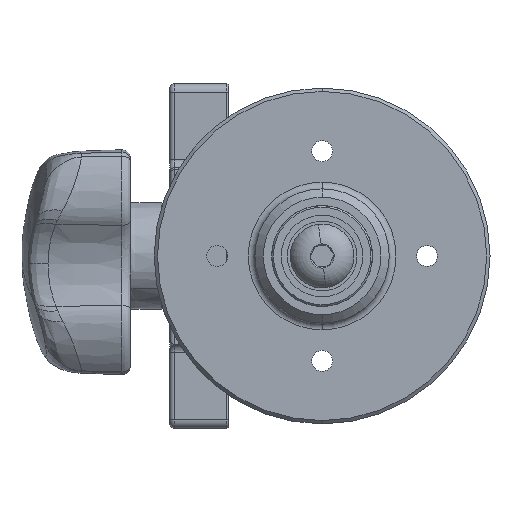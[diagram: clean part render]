
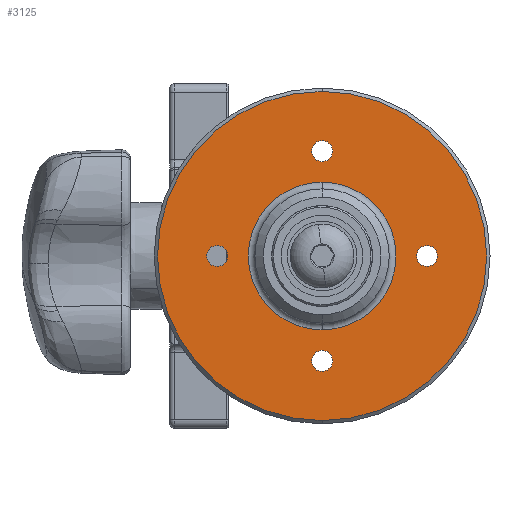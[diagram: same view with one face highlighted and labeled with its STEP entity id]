
A CAD part, left-side view. The second image highlights one B-rep face of the part: STEP entity #3125.
In plain terms, the highlighted planar face has unit normal (-1, 0, 0).
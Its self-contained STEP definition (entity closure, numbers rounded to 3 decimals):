
#211 = VERTEX_POINT ( 'NONE', #40286 ) ;
#620 = CARTESIAN_POINT ( 'NONE',  ( -23., 10.875, 0. ) ) ;
#1340 = DIRECTION ( 'NONE',  ( -1., 0., 0. ) ) ;
#1587 = AXIS2_PLACEMENT_3D ( 'NONE', #14148, #36332, #9203 ) ;
#3125 = ADVANCED_FACE ( 'NONE', ( #69197, #13176, #21690, #53123, #48879, #38749 ), #14238, .T. ) ;
#4260 = AXIS2_PLACEMENT_3D ( 'NONE', #45377, #12817, #55570 ) ;
#4663 = DIRECTION ( 'NONE',  ( -1., 0., 0. ) ) ;
#5542 = VERTEX_POINT ( 'NONE', #28936 ) ;
#6027 = AXIS2_PLACEMENT_3D ( 'NONE', #23397, #45500, #12935 ) ;
#7520 = ORIENTED_EDGE ( 'NONE', *, *, #42803, .T. ) ;
#9203 = DIRECTION ( 'NONE',  ( 0., 0., 1. ) ) ;
#9245 = DIRECTION ( 'NONE',  ( -1., 0., 0. ) ) ;
#10190 = DIRECTION ( 'NONE',  ( 0., 0., 1. ) ) ;
#10434 = ORIENTED_EDGE ( 'NONE', *, *, #15001, .F. ) ;
#11904 = EDGE_CURVE ( 'NONE', #53895, #22512, #35345, .T. ) ;
#12817 = DIRECTION ( 'NONE',  ( -1., 0., 0. ) ) ;
#12871 = EDGE_LOOP ( 'NONE', ( #64653, #32548 ) ) ;
#12935 = DIRECTION ( 'NONE',  ( 0., 0., 1. ) ) ;
#13176 = FACE_BOUND ( 'NONE', #56839, .T. ) ;
#13773 = DIRECTION ( 'NONE',  ( 0., 0., 1. ) ) ;
#14148 = CARTESIAN_POINT ( 'NONE',  ( -23., -1.625, 0. ) ) ;
#14238 = PLANE ( 'NONE',  #20377 ) ;
#15001 = EDGE_CURVE ( 'NONE', #27385, #35180, #16781, .T. ) ;
#15328 = AXIS2_PLACEMENT_3D ( 'NONE', #35072, #46654, #68186 ) ;
#16122 = ORIENTED_EDGE ( 'NONE', *, *, #65650, .F. ) ;
#16781 = CIRCLE ( 'NONE', #24660, 1.25 ) ;
#18913 = AXIS2_PLACEMENT_3D ( 'NONE', #620, #1340, #44636 ) ;
#19375 = ORIENTED_EDGE ( 'NONE', *, *, #55186, .F. ) ;
#19451 = CIRCLE ( 'NONE', #22443, 1.25 ) ;
#19595 = VERTEX_POINT ( 'NONE', #45884 ) ;
#19921 = CARTESIAN_POINT ( 'NONE',  ( -23., 10.875, 0. ) ) ;
#20056 = DIRECTION ( 'NONE',  ( -1., 0., 0. ) ) ;
#20174 = EDGE_CURVE ( 'NONE', #52484, #49333, #40507, .T. ) ;
#20377 = AXIS2_PLACEMENT_3D ( 'NONE', #19921, #46365, #13773 ) ;
#20581 = DIRECTION ( 'NONE',  ( 0., 0., 1. ) ) ;
#21690 = FACE_BOUND ( 'NONE', #60979, .T. ) ;
#22384 = VERTEX_POINT ( 'NONE', #34439 ) ;
#22443 = AXIS2_PLACEMENT_3D ( 'NONE', #40765, #24794, #51642 ) ;
#22512 = VERTEX_POINT ( 'NONE', #68284 ) ;
#23397 = CARTESIAN_POINT ( 'NONE',  ( -23., 10.875, 0. ) ) ;
#24660 = AXIS2_PLACEMENT_3D ( 'NONE', #64135, #63660, #42110 ) ;
#24794 = DIRECTION ( 'NONE',  ( -1., 0., 0. ) ) ;
#25819 = DIRECTION ( 'NONE',  ( 0., 0., 1. ) ) ;
#27084 = AXIS2_PLACEMENT_3D ( 'NONE', #69237, #9245, #20581 ) ;
#27212 = CIRCLE ( 'NONE', #27084, 1.25 ) ;
#27228 = CARTESIAN_POINT ( 'NONE',  ( -23., 10.875, 0. ) ) ;
#27385 = VERTEX_POINT ( 'NONE', #29874 ) ;
#28936 = CARTESIAN_POINT ( 'NONE',  ( -23., 23.375, 1.25 ) ) ;
#29874 = CARTESIAN_POINT ( 'NONE',  ( -23., 10.875, 13.75 ) ) ;
#30556 = EDGE_CURVE ( 'NONE', #22512, #53895, #66370, .T. ) ;
#30778 = ORIENTED_EDGE ( 'NONE', *, *, #45862, .T. ) ;
#31016 = AXIS2_PLACEMENT_3D ( 'NONE', #27228, #59486, #43360 ) ;
#31550 = EDGE_LOOP ( 'NONE', ( #10434, #56074 ) ) ;
#32548 = ORIENTED_EDGE ( 'NONE', *, *, #30556, .T. ) ;
#33162 = AXIS2_PLACEMENT_3D ( 'NONE', #54755, #54067, #65178 ) ;
#33662 = CIRCLE ( 'NONE', #15328, 1.25 ) ;
#34439 = CARTESIAN_POINT ( 'NONE',  ( -23., 10.875, -19.6 ) ) ;
#35072 = CARTESIAN_POINT ( 'NONE',  ( -23., 10.875, 12.5 ) ) ;
#35180 = VERTEX_POINT ( 'NONE', #56860 ) ;
#35345 = CIRCLE ( 'NONE', #33162, 8.8 ) ;
#35558 = CARTESIAN_POINT ( 'NONE',  ( -23., 23.375, -1.25 ) ) ;
#36332 = DIRECTION ( 'NONE',  ( -1., 0., 0. ) ) ;
#37028 = EDGE_CURVE ( 'NONE', #5542, #40491, #27212, .T. ) ;
#38749 = FACE_OUTER_BOUND ( 'NONE', #53521, .T. ) ;
#39255 = VERTEX_POINT ( 'NONE', #62752 ) ;
#39554 = CIRCLE ( 'NONE', #31016, 19.6 ) ;
#40286 = CARTESIAN_POINT ( 'NONE',  ( -23., -1.625, 1.25 ) ) ;
#40491 = VERTEX_POINT ( 'NONE', #35558 ) ;
#40507 = CIRCLE ( 'NONE', #49089, 1.25 ) ;
#40765 = CARTESIAN_POINT ( 'NONE',  ( -23., 23.375, 0. ) ) ;
#41366 = CARTESIAN_POINT ( 'NONE',  ( -23., 10.875, -13.75 ) ) ;
#42110 = DIRECTION ( 'NONE',  ( 0., 0., 1. ) ) ;
#42751 = CARTESIAN_POINT ( 'NONE',  ( -23., -1.625, 0. ) ) ;
#42803 = EDGE_CURVE ( 'NONE', #39255, #22384, #39554, .T. ) ;
#43017 = ORIENTED_EDGE ( 'NONE', *, *, #68227, .F. ) ;
#43360 = DIRECTION ( 'NONE',  ( 0., 0., 1. ) ) ;
#44636 = DIRECTION ( 'NONE',  ( 0., 0., 1. ) ) ;
#45377 = CARTESIAN_POINT ( 'NONE',  ( -23., 10.875, -12.5 ) ) ;
#45500 = DIRECTION ( 'NONE',  ( 1., 0., 0. ) ) ;
#45765 = AXIS2_PLACEMENT_3D ( 'NONE', #42751, #4663, #10190 ) ;
#45862 = EDGE_CURVE ( 'NONE', #22384, #39255, #66152, .T. ) ;
#45884 = CARTESIAN_POINT ( 'NONE',  ( -23., -1.625, -1.25 ) ) ;
#46155 = CARTESIAN_POINT ( 'NONE',  ( -23., 10.875, 8.8 ) ) ;
#46365 = DIRECTION ( 'NONE',  ( -1., 0., 0. ) ) ;
#46654 = DIRECTION ( 'NONE',  ( -1., 0., 0. ) ) ;
#48879 = FACE_BOUND ( 'NONE', #12871, .T. ) ;
#49089 = AXIS2_PLACEMENT_3D ( 'NONE', #53588, #20056, #25819 ) ;
#49333 = VERTEX_POINT ( 'NONE', #67158 ) ;
#51642 = DIRECTION ( 'NONE',  ( 0., 0., 1. ) ) ;
#52484 = VERTEX_POINT ( 'NONE', #41366 ) ;
#52655 = CIRCLE ( 'NONE', #4260, 1.25 ) ;
#53123 = FACE_BOUND ( 'NONE', #31550, .T. ) ;
#53521 = EDGE_LOOP ( 'NONE', ( #30778, #7520 ) ) ;
#53588 = CARTESIAN_POINT ( 'NONE',  ( -23., 10.875, -12.5 ) ) ;
#53895 = VERTEX_POINT ( 'NONE', #46155 ) ;
#54067 = DIRECTION ( 'NONE',  ( 1., 0., 0. ) ) ;
#54068 = CIRCLE ( 'NONE', #1587, 1.25 ) ;
#54719 = EDGE_LOOP ( 'NONE', ( #67505, #16122 ) ) ;
#54755 = CARTESIAN_POINT ( 'NONE',  ( -23., 10.875, 0. ) ) ;
#55186 = EDGE_CURVE ( 'NONE', #19595, #211, #54068, .T. ) ;
#55537 = CIRCLE ( 'NONE', #45765, 1.25 ) ;
#55570 = DIRECTION ( 'NONE',  ( 0., 0., 1. ) ) ;
#55583 = EDGE_CURVE ( 'NONE', #35180, #27385, #33662, .T. ) ;
#56074 = ORIENTED_EDGE ( 'NONE', *, *, #55583, .F. ) ;
#56839 = EDGE_LOOP ( 'NONE', ( #43017, #60845 ) ) ;
#56860 = CARTESIAN_POINT ( 'NONE',  ( -23., 10.875, 11.25 ) ) ;
#59486 = DIRECTION ( 'NONE',  ( -1., 0., 0. ) ) ;
#60773 = EDGE_CURVE ( 'NONE', #211, #19595, #55537, .T. ) ;
#60845 = ORIENTED_EDGE ( 'NONE', *, *, #20174, .F. ) ;
#60979 = EDGE_LOOP ( 'NONE', ( #63601, #19375 ) ) ;
#62752 = CARTESIAN_POINT ( 'NONE',  ( -23., 10.875, 19.6 ) ) ;
#63601 = ORIENTED_EDGE ( 'NONE', *, *, #60773, .F. ) ;
#63660 = DIRECTION ( 'NONE',  ( -1., 0., 0. ) ) ;
#64135 = CARTESIAN_POINT ( 'NONE',  ( -23., 10.875, 12.5 ) ) ;
#64653 = ORIENTED_EDGE ( 'NONE', *, *, #11904, .T. ) ;
#65178 = DIRECTION ( 'NONE',  ( 0., 0., 1. ) ) ;
#65650 = EDGE_CURVE ( 'NONE', #40491, #5542, #19451, .T. ) ;
#66152 = CIRCLE ( 'NONE', #18913, 19.6 ) ;
#66370 = CIRCLE ( 'NONE', #6027, 8.8 ) ;
#67158 = CARTESIAN_POINT ( 'NONE',  ( -23., 10.875, -11.25 ) ) ;
#67505 = ORIENTED_EDGE ( 'NONE', *, *, #37028, .F. ) ;
#68186 = DIRECTION ( 'NONE',  ( 0., 0., 1. ) ) ;
#68227 = EDGE_CURVE ( 'NONE', #49333, #52484, #52655, .T. ) ;
#68284 = CARTESIAN_POINT ( 'NONE',  ( -23., 10.875, -8.8 ) ) ;
#69197 = FACE_BOUND ( 'NONE', #54719, .T. ) ;
#69237 = CARTESIAN_POINT ( 'NONE',  ( -23., 23.375, 0. ) ) ;
